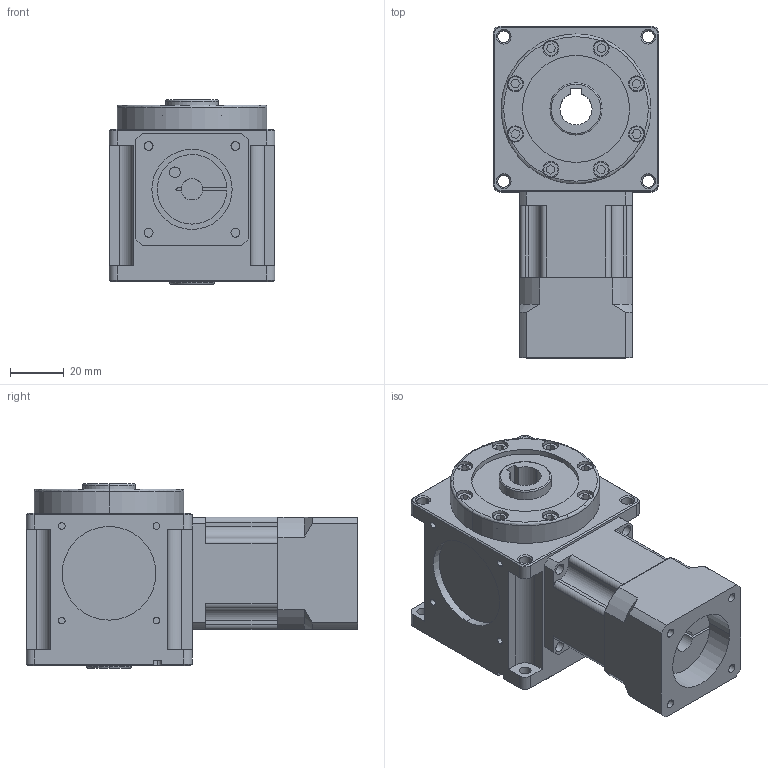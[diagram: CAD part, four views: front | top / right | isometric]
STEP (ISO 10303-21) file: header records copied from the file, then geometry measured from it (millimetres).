
FILE_DESCRIPTION (( 'STEP AP214' ), '1' );
FILE_NAME ('CCW062A-L1(6-20)-CR 8-30-46-M4.STEP', '2025-06-02T07:59:15', ( '微软用户' ), ( '微软中国' ), 'SwSTEP 2.0', 'SolidWorks 2024', '' );
FILE_SCHEMA (( 'AUTOMOTIVE_DESIGN' ));
Length unit declared in the file: millimetre
Products named in the file (3): CCW062A-L1(6-20)-CR 8-30-46-M4; CCW062A-002-CR箱体; 042-L1齿圈
Assembly tree (2 placements, depth 2):
  CCW062A-L1(6-20)-CR 8-30-46-M4
    CCW062A-002-CR箱体
    042-L1齿圈
Bounding box: 62 x 124 x 69 mm (x, y, z)
Volume: 292440.2 mm3; surface area: 48220 mm2
Topology: 2 solids, 2 shells, 414 faces, 1009 edges, 646 vertices
Faces by surface type: plane 196, cylinder 166, cone 44, torus 8
Entity records: 12435 total; most frequent: CARTESIAN_POINT 2250, DIRECTION 2225, ORIENTED_EDGE 2018, EDGE_CURVE 1009, AXIS2_PLACEMENT_3D 829, VERTEX_POINT 646, VECTOR 567, LINE 567
